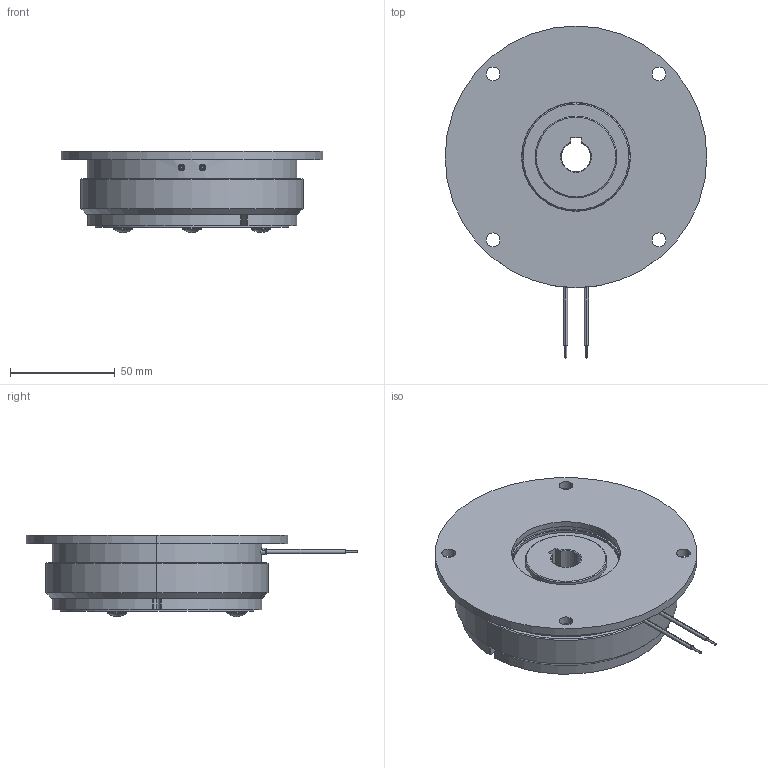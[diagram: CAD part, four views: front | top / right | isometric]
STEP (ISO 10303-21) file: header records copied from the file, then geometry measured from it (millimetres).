
FILE_DESCRIPTION (( 'STEP AP214' ), '1' );
FILE_NAME ('dr_bk_0803-110_mu.STEP', '2021-12-01T08:44:33', ( '' ), ( '' ), 'SwSTEP 2.0', 'SolidWorks 2019', '' );
FILE_SCHEMA (( 'AUTOMOTIVE_DESIGN' ));
Length unit declared in the file: millimetre
Products named in the file (8): 10069131_000; 10068817_000; 10068821_000; dr_bk_0803-110_mu; 10068819_000_Einbaul„nge 3,85; 10068820_000; 10068816_000; 10069116_000
Assembly tree (11 placements, depth 3):
  dr_bk_0803-110_mu
    10069116_000
    10069131_000
    10068817_000
      10068816_000
      10068821_000
      10068820_000  x3
      10068819_000_Einbaul„nge 3,85  x3
Bounding box: 125 x 158.5 x 38.8 mm (x, y, z)
Volume: 277092.3 mm3; surface area: 86132.6 mm2
Topology: 12 solids, 12 shells, 268 faces, 621 edges, 384 vertices
Faces by surface type: cylinder 142, cone 58, plane 46, torus 16, sphere 6
Entity records: 8165 total; most frequent: DIRECTION 1259, CARTESIAN_POINT 1250, ORIENTED_EDGE 1022, AXIS2_PLACEMENT_3D 527, EDGE_CURVE 511, VERTEX_POINT 324, CIRCLE 294, EDGE_LOOP 275
